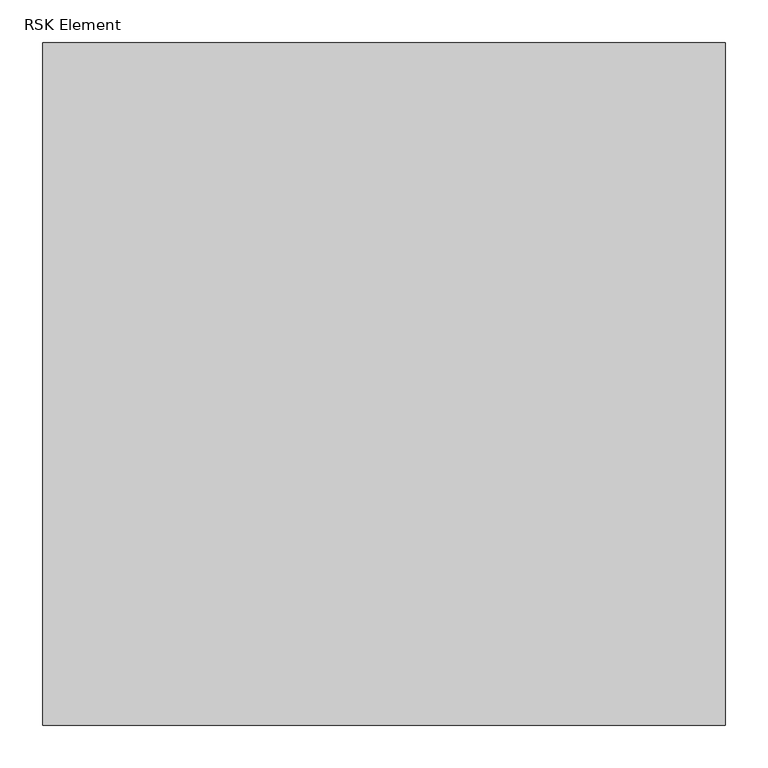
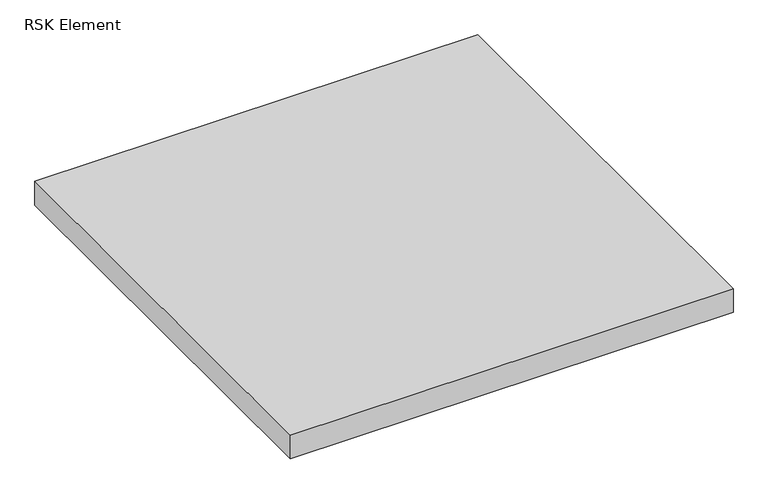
"""IFC4 building model written with IfcOpenShell, lengths in millimetres: proxy geometry, RAUSIKKO SX+HX TopElement : RSK Element."""

from ifc_helpers import new_model, si_unit, origin, origin_with_axes, place, context, project, spatial, polyline, outline, extrude, source, transform, mapped, element, save


def rsk_element_9da8209a(model_context):
    return source(origin(), model_context, "Body", "SweptSolid", [
        extrude(outline(polyline([(0.0, 0.0), (0.0, 800.0), (800.0, 800.0), (800.0, 0.0), (0.0, 0.0)])), origin_with_axes(), (0.0, 0.0, 1.0), 45.0),
    ])


if __name__ == "__main__":
    model = new_model("IFC4")
    model_context = context("Model", 3, world=origin())
    ifc_project = project(units=[si_unit("LENGTHUNIT", "METRE", prefix="MILLI")], contexts=[model_context])
    site = spatial("IfcSite", under=ifc_project)
    building = spatial("IfcBuilding", under=site)
    placement = place(None, origin())
    rsk_element_shape = rsk_element_9da8209a(model_context)
    element("IfcBuildingElementProxy", 1, Name="RAUSIKKO SX+HX TopElement : RSK Element", ObjectType="RAUSIKKO SX+HX TopElement : RSK Element", at=placement, inside=building, context=model_context, shape_type="MappedRepresentation", body=[
        mapped(rsk_element_shape, transform((0.0, 0.0, 0.0), x_axis=(1.0, 0.0, 0.0), y_axis=(0.0, 1.0, 0.0), z_axis=(0.0, 0.0, 1.0))),
    ])
    save(model, "model.ifc")
